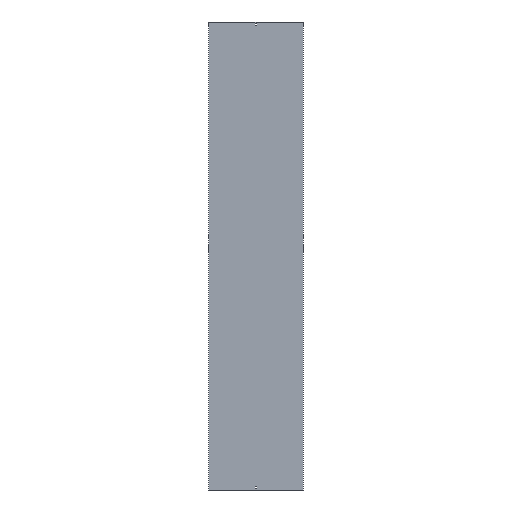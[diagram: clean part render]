
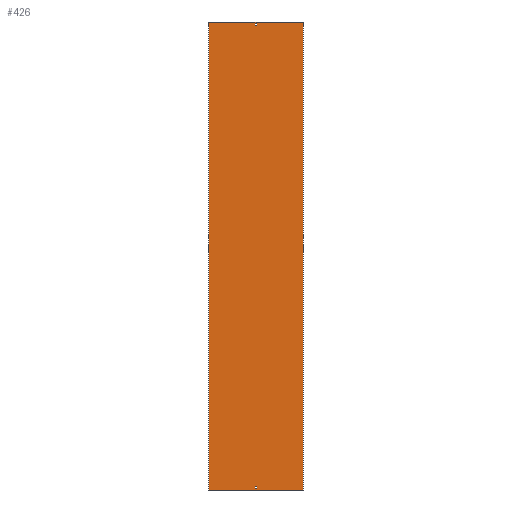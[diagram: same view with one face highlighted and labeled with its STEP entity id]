
A CAD part, front view. The second image highlights one B-rep face of the part: STEP entity #426.
In plain terms, the highlighted planar face has unit normal (0, -1, 0).
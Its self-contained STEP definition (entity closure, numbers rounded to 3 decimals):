
#5 = CARTESIAN_POINT ( 'NONE',  ( 3.25, 0., 1488. ) ) ;
#16 = DIRECTION ( 'NONE',  ( 1., 0., 0. ) ) ;
#25 = CARTESIAN_POINT ( 'NONE',  ( 3.25, 0., -1479. ) ) ;
#46 = VECTOR ( 'NONE', #316, 1000. ) ;
#74 = DIRECTION ( 'NONE',  ( 0., 0., -1. ) ) ;
#82 = LINE ( 'NONE', #421, #859 ) ;
#101 = CARTESIAN_POINT ( 'NONE',  ( -302., 0., -1500. ) ) ;
#106 = ORIENTED_EDGE ( 'NONE', *, *, #483, .F. ) ;
#109 = LINE ( 'NONE', #441, #228 ) ;
#114 = DIRECTION ( 'NONE',  ( -1., 0., 0. ) ) ;
#139 = VERTEX_POINT ( 'NONE', #592 ) ;
#142 = DIRECTION ( 'NONE',  ( 0., 1., 0. ) ) ;
#143 = EDGE_LOOP ( 'NONE', ( #437, #990, #270, #203 ) ) ;
#153 = VECTOR ( 'NONE', #16, 1000. ) ;
#171 = CARTESIAN_POINT ( 'NONE',  ( -3.25, 0., 1479. ) ) ;
#196 = LINE ( 'NONE', #377, #153 ) ;
#203 = ORIENTED_EDGE ( 'NONE', *, *, #236, .T. ) ;
#206 = EDGE_CURVE ( 'NONE', #307, #276, #82, .T. ) ;
#214 = DIRECTION ( 'NONE',  ( -1., 0., 0. ) ) ;
#217 = EDGE_CURVE ( 'NONE', #930, #448, #196, .T. ) ;
#220 = CARTESIAN_POINT ( 'NONE',  ( 3.25, 0., 1479. ) ) ;
#228 = VECTOR ( 'NONE', #712, 1000. ) ;
#230 = CARTESIAN_POINT ( 'NONE',  ( -3.25, 0., -1488. ) ) ;
#235 = FACE_BOUND ( 'NONE', #143, .T. ) ;
#236 = EDGE_CURVE ( 'NONE', #276, #797, #627, .T. ) ;
#257 = EDGE_LOOP ( 'NONE', ( #384, #106, #470, #952 ) ) ;
#270 = ORIENTED_EDGE ( 'NONE', *, *, #206, .T. ) ;
#276 = VERTEX_POINT ( 'NONE', #883 ) ;
#278 = VERTEX_POINT ( 'NONE', #101 ) ;
#280 = CARTESIAN_POINT ( 'NONE',  ( -3.25, 0., -1479. ) ) ;
#304 = EDGE_CURVE ( 'NONE', #429, #307, #892, .T. ) ;
#307 = VERTEX_POINT ( 'NONE', #25 ) ;
#310 = VERTEX_POINT ( 'NONE', #815 ) ;
#313 = FACE_OUTER_BOUND ( 'NONE', #319, .T. ) ;
#316 = DIRECTION ( 'NONE',  ( 0., 0., 1. ) ) ;
#319 = EDGE_LOOP ( 'NONE', ( #936, #341, #1059, #751 ) ) ;
#323 = CARTESIAN_POINT ( 'NONE',  ( -3.25, 0., 1488. ) ) ;
#341 = ORIENTED_EDGE ( 'NONE', *, *, #894, .F. ) ;
#377 = CARTESIAN_POINT ( 'NONE',  ( -3.25, 0., 1479. ) ) ;
#384 = ORIENTED_EDGE ( 'NONE', *, *, #217, .F. ) ;
#398 = EDGE_CURVE ( 'NONE', #278, #139, #928, .T. ) ;
#408 = CARTESIAN_POINT ( 'NONE',  ( -302., 0., 1500. ) ) ;
#414 = LINE ( 'NONE', #594, #497 ) ;
#421 = CARTESIAN_POINT ( 'NONE',  ( 3.25, 0., -1488. ) ) ;
#426 = ADVANCED_FACE ( 'NONE', ( #313, #1094, #235 ), #574, .F. ) ;
#428 = LINE ( 'NONE', #791, #879 ) ;
#429 = VERTEX_POINT ( 'NONE', #1105 ) ;
#437 = ORIENTED_EDGE ( 'NONE', *, *, #785, .T. ) ;
#441 = CARTESIAN_POINT ( 'NONE',  ( -302., 0., 1500. ) ) ;
#448 = VERTEX_POINT ( 'NONE', #220 ) ;
#470 = ORIENTED_EDGE ( 'NONE', *, *, #1015, .F. ) ;
#476 = AXIS2_PLACEMENT_3D ( 'NONE', #568, #142, #214 ) ;
#483 = EDGE_CURVE ( 'NONE', #310, #930, #838, .T. ) ;
#494 = VECTOR ( 'NONE', #633, 1000. ) ;
#497 = VECTOR ( 'NONE', #1026, 1000. ) ;
#501 = CARTESIAN_POINT ( 'NONE',  ( -302., 0., 1500. ) ) ;
#506 = LINE ( 'NONE', #501, #1126 ) ;
#543 = CARTESIAN_POINT ( 'NONE',  ( -3.25, 0., -1488. ) ) ;
#547 = VECTOR ( 'NONE', #1005, 1000. ) ;
#555 = DIRECTION ( 'NONE',  ( 0., 0., -1. ) ) ;
#558 = EDGE_CURVE ( 'NONE', #822, #278, #506, .T. ) ;
#568 = CARTESIAN_POINT ( 'NONE',  ( -302., 0., 1500. ) ) ;
#574 = PLANE ( 'NONE',  #476 ) ;
#592 = CARTESIAN_POINT ( 'NONE',  ( 302., 0., -1500. ) ) ;
#594 = CARTESIAN_POINT ( 'NONE',  ( 302., 0., 1500. ) ) ;
#627 = LINE ( 'NONE', #543, #973 ) ;
#633 = DIRECTION ( 'NONE',  ( 1., 0., 0. ) ) ;
#671 = EDGE_CURVE ( 'NONE', #448, #993, #801, .T. ) ;
#712 = DIRECTION ( 'NONE',  ( 1., 0., 0. ) ) ;
#716 = VECTOR ( 'NONE', #555, 1000. ) ;
#747 = LINE ( 'NONE', #826, #46 ) ;
#751 = ORIENTED_EDGE ( 'NONE', *, *, #558, .T. ) ;
#777 = DIRECTION ( 'NONE',  ( 0., 0., -1. ) ) ;
#785 = EDGE_CURVE ( 'NONE', #797, #429, #747, .T. ) ;
#791 = CARTESIAN_POINT ( 'NONE',  ( -3.25, 0., 1488. ) ) ;
#797 = VERTEX_POINT ( 'NONE', #230 ) ;
#801 = LINE ( 'NONE', #986, #878 ) ;
#815 = CARTESIAN_POINT ( 'NONE',  ( -3.25, 0., 1488. ) ) ;
#822 = VERTEX_POINT ( 'NONE', #408 ) ;
#826 = CARTESIAN_POINT ( 'NONE',  ( -3.25, 0., -1488. ) ) ;
#832 = CARTESIAN_POINT ( 'NONE',  ( -302., 0., -1500. ) ) ;
#838 = LINE ( 'NONE', #323, #716 ) ;
#859 = VECTOR ( 'NONE', #777, 1000. ) ;
#878 = VECTOR ( 'NONE', #1066, 1000. ) ;
#879 = VECTOR ( 'NONE', #114, 1000. ) ;
#883 = CARTESIAN_POINT ( 'NONE',  ( 3.25, 0., -1488. ) ) ;
#892 = LINE ( 'NONE', #280, #494 ) ;
#894 = EDGE_CURVE ( 'NONE', #1118, #139, #414, .T. ) ;
#912 = CARTESIAN_POINT ( 'NONE',  ( 302., 0., 1500. ) ) ;
#928 = LINE ( 'NONE', #832, #547 ) ;
#930 = VERTEX_POINT ( 'NONE', #171 ) ;
#936 = ORIENTED_EDGE ( 'NONE', *, *, #398, .T. ) ;
#952 = ORIENTED_EDGE ( 'NONE', *, *, #671, .F. ) ;
#973 = VECTOR ( 'NONE', #992, 1000. ) ;
#986 = CARTESIAN_POINT ( 'NONE',  ( 3.25, 0., 1488. ) ) ;
#990 = ORIENTED_EDGE ( 'NONE', *, *, #304, .T. ) ;
#992 = DIRECTION ( 'NONE',  ( -1., 0., 0. ) ) ;
#993 = VERTEX_POINT ( 'NONE', #5 ) ;
#1005 = DIRECTION ( 'NONE',  ( 1., 0., 0. ) ) ;
#1015 = EDGE_CURVE ( 'NONE', #993, #310, #428, .T. ) ;
#1026 = DIRECTION ( 'NONE',  ( 0., 0., -1. ) ) ;
#1058 = EDGE_CURVE ( 'NONE', #822, #1118, #109, .T. ) ;
#1059 = ORIENTED_EDGE ( 'NONE', *, *, #1058, .F. ) ;
#1066 = DIRECTION ( 'NONE',  ( 0., 0., 1. ) ) ;
#1094 = FACE_BOUND ( 'NONE', #257, .T. ) ;
#1105 = CARTESIAN_POINT ( 'NONE',  ( -3.25, 0., -1479. ) ) ;
#1118 = VERTEX_POINT ( 'NONE', #912 ) ;
#1126 = VECTOR ( 'NONE', #74, 1000. ) ;
